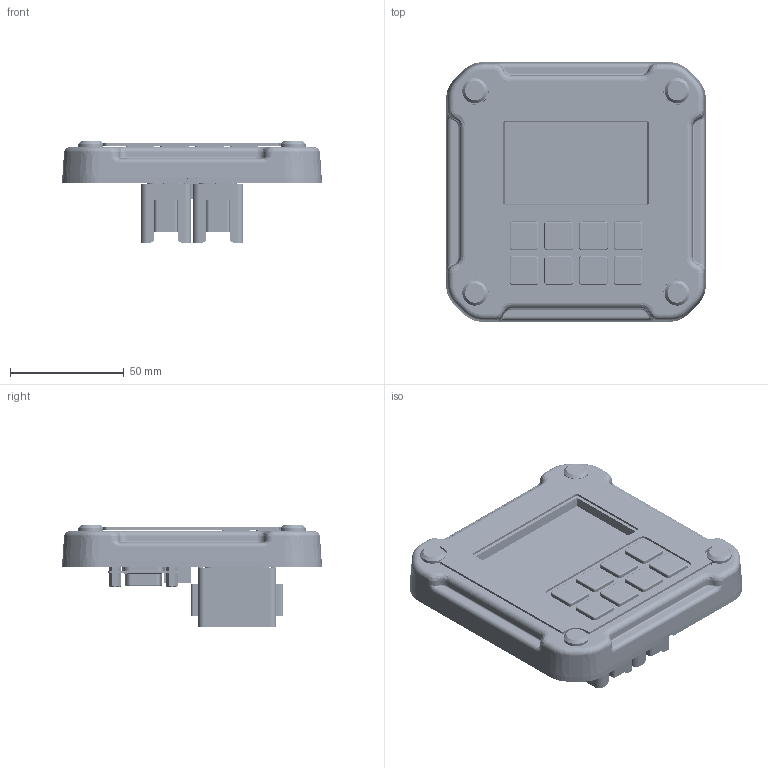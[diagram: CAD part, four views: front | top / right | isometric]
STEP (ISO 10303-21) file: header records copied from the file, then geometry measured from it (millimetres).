
FILE_DESCRIPTION(/* description */ (''),/* implementation_level */ '2;1');
FILE_NAME(/* name */ '8_BUTTON_LDC_CUSTOMER_MODEL.step',/* time_stamp */ '2026-05-29T08:51:35-04:00',/* author */ (''),/* organization */ (''),/* preprocessor_version */ 'ST-DEVELOPER v20.1',/* originating_system */ 'Autodesk Translation Framework v15.8.0.0',/* authorisation */ '');
FILE_SCHEMA (('AUTOMOTIVE_DESIGN { 1 0 10303 214 3 1 1 }'));
Products named in the file (12): 8_BUTTON_LDC_CUSTOMER_MODEL; BARBED NUT; BARBED NUT (1); BARBED NUT (2); BARBED NUT (3); 0947-073 v3; ENCLOSURE TOP; KEYPAD: 8 BUTTON; PCB; DISPLAY; ENCLOSURE SCREWS; POTTING COMPOUND
Assembly tree (11 placements, depth 2):
  8_BUTTON_LDC_CUSTOMER_MODEL
    BARBED NUT
    BARBED NUT (1)
    BARBED NUT (2)
    BARBED NUT (3)
    0947-073 v3
    ENCLOSURE TOP
    KEYPAD: 8 BUTTON
    PCB
    DISPLAY
    ENCLOSURE SCREWS
    POTTING COMPOUND
Bounding box: 114.12 x 114.12 x 44.5 mm (x, y, z)
Volume: 149788 mm3; surface area: 143533.2 mm2
Topology: 81 solids, 81 shells, 4680 faces, 12406 edges, 8034 vertices
Faces by surface type: plane 1369, bspline 1331, cylinder 1144, cone 628, torus 152, sphere 56
Full cylindrical faces by diameter (mm): 0.15 x15, 0.508 x3, 0.55 x15, 1.1 x17, 1.15 x18, 1.3 x15, 1.5 x39, 1.58 x24, 1.7 x24, 1.9 x2, 1.935 x40, 2.5 x20, 2.6 x24, 2.61 x14, 3 x18, 3.1 x2, 3.175 x8, 3.3 x4, 3.44 x2, 3.84 x4, 3.9 x2, 4.44 x2, 4.826 x36, 5.563 x8, 5.994 x4, 10.998 x4, 11.903 x1, 11.957 x1, 12.039 x1, 12.118 x1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
Entity records: 272482 total; most frequent: CARTESIAN_POINT 165802, ORIENTED_EDGE 24692, DIRECTION 18231, EDGE_CURVE 12346, VERTEX_POINT 8034, AXIS2_PLACEMENT_3D 6836, EDGE_LOOP 5132, FACE_OUTER_BOUND 4680
